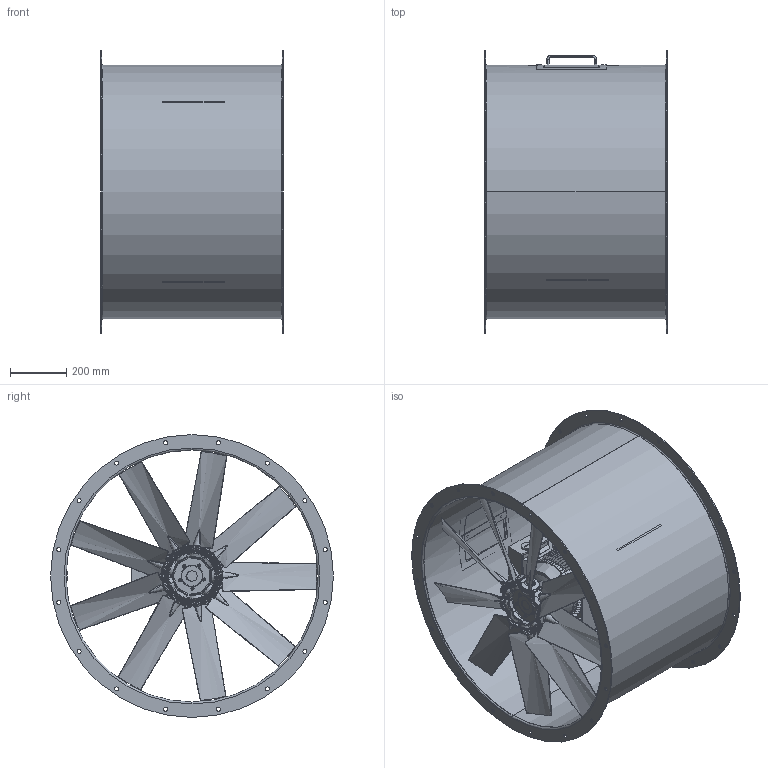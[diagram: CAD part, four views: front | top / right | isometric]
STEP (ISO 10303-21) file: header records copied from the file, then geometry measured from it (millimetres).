
FILE_DESCRIPTION (( 'STEP AP214' ), '1' );
FILE_NAME ('BRV 900_FF_L=650_mot.132_lang utf.STEP', '2020-09-09T10:54:31', ( '' ), ( '' ), 'SwSTEP 2.0', 'SolidWorks 2016', '' );
FILE_SCHEMA (( 'AUTOMOTIVE_DESIGN' ));
Length unit declared in the file: millimetre
Products named in the file (26): BRV 900 Insp.luke 200x200; Boss Bolt And Nuts - 891_9-9_40_PAGAS_5ZL_38_10_82_A-122917; Boss Bolt And Nuts - 891_9-9_40_PAGAS_5ZL_38_10_82_A-122917_4; M8_C1-1 Bolt And Nuts - 891_9-9_40_PAGAS_5ZL_38_10_82_A-122917_4; BB-Nut-Y63206000040_891_9-9_40_PAGAS_5ZL_38_10_82_A-122917; Boss Bolt And Nuts - 891_9-9_40_PAGAS_5ZL_38_10_82_A-122917_3; BB-Bolt-Y62006200040_891_9-9_40_PAGAS_5ZL_38_10_82_A-122917; 24000707800 - 891_9-9_40_PAGAS_5ZL_38_10_82_A-122917; Boss Bolt And Nuts - 891_9-9_40_PAGAS_5ZL_38_10_82_A-122917_2; Boss Bolt And Nuts - 891_9-9_40_PAGAS_5ZL_38_10_82_A-122917_5; 15100300018 - 891_9-9_40_PAGAS_5ZL_38_10_82_A-122917; 891_9-9_40_PAGAS_5ZL_38_10_82_A-122917; 21090708103 - 891_9-9_40_PAGAS_5ZL_38_10_82_A-122917; C1-1-Nuts-Y63206000040_891_9-9_40_PAGAS_5ZL_38_10_82_A-122917; M8_C1-1 Bolt And Nuts - 891_9-9_40_PAGAS_5ZL_38_10_82_A-122917_5; 1TZ9 C 132S-2 5 5kW B3 IE3; M8_C1-1 Bolt And Nuts - 891_9-9_40_PAGAS_5ZL_38_10_82_A-122917_2; M8_C1-1 Bolt And Nuts - 891_9-9_40_PAGAS_5ZL_38_10_82_A-122917_3; M8_C1-1 Bolt And Nuts - 891_9-9_40_PAGAS_5ZL_38_10_82_A-122917; C1-1-Bolt-Y62006350040_891_9-9_40_PAGAS_5ZL_38_10_82_A-122917; BRV 900_hus_FF_L=650_mot. 132_lang utf; M8_C1-1 Bolt And Nuts - 891_9-9_40_PAGAS_5ZL_38_10_82_A-122917_9; M8_C1-1 Bolt And Nuts - 891_9-9_40_PAGAS_5ZL_38_10_82_A-122917_6; BRV 900_FF_L=650_mot.132_lang utf; M8_C1-1 Bolt And Nuts - 891_9-9_40_PAGAS_5ZL_38_10_82_A-122917_8; M8_C1-1 Bolt And Nuts - 891_9-9_40_PAGAS_5ZL_38_10_82_A-122917_7
Assembly tree (58 placements, depth 4):
  BRV 900_FF_L=650_mot.132_lang utf
    BRV 900_hus_FF_L=650_mot. 132_lang utf
    1TZ9 C 132S-2 5 5kW B3 IE3
    BRV 900 Insp.luke 200x200
    891_9-9_40_PAGAS_5ZL_38_10_82_A-122917
      21090708103 - 891_9-9_40_PAGAS_5ZL_38_10_82_A-122917  x2
      15100300018 - 891_9-9_40_PAGAS_5ZL_38_10_82_A-122917  x9
      24000707800 - 891_9-9_40_PAGAS_5ZL_38_10_82_A-122917
      Boss Bolt And Nuts - 891_9-9_40_PAGAS_5ZL_38_10_82_A-122917
        BB-Bolt-Y62006200040_891_9-9_40_PAGAS_5ZL_38_10_82_A-122917
        BB-Nut-Y63206000040_891_9-9_40_PAGAS_5ZL_38_10_82_A-122917
      M8_C1-1 Bolt And Nuts - 891_9-9_40_PAGAS_5ZL_38_10_82_A-122917
        C1-1-Bolt-Y62006350040_891_9-9_40_PAGAS_5ZL_38_10_82_A-122917
        C1-1-Nuts-Y63206000040_891_9-9_40_PAGAS_5ZL_38_10_82_A-122917
      Boss Bolt And Nuts - 891_9-9_40_PAGAS_5ZL_38_10_82_A-122917_2
        BB-Bolt-Y62006200040_891_9-9_40_PAGAS_5ZL_38_10_82_A-122917
        BB-Nut-Y63206000040_891_9-9_40_PAGAS_5ZL_38_10_82_A-122917
      Boss Bolt And Nuts - 891_9-9_40_PAGAS_5ZL_38_10_82_A-122917_3
        BB-Bolt-Y62006200040_891_9-9_40_PAGAS_5ZL_38_10_82_A-122917
        BB-Nut-Y63206000040_891_9-9_40_PAGAS_5ZL_38_10_82_A-122917
      Boss Bolt And Nuts - 891_9-9_40_PAGAS_5ZL_38_10_82_A-122917_4
        BB-Bolt-Y62006200040_891_9-9_40_PAGAS_5ZL_38_10_82_A-122917
        BB-Nut-Y63206000040_891_9-9_40_PAGAS_5ZL_38_10_82_A-122917
      Boss Bolt And Nuts - 891_9-9_40_PAGAS_5ZL_38_10_82_A-122917_5
        BB-Bolt-Y62006200040_891_9-9_40_PAGAS_5ZL_38_10_82_A-122917
        BB-Nut-Y63206000040_891_9-9_40_PAGAS_5ZL_38_10_82_A-122917
      M8_C1-1 Bolt And Nuts - 891_9-9_40_PAGAS_5ZL_38_10_82_A-122917_2
        C1-1-Bolt-Y62006350040_891_9-9_40_PAGAS_5ZL_38_10_82_A-122917
        C1-1-Nuts-Y63206000040_891_9-9_40_PAGAS_5ZL_38_10_82_A-122917
      M8_C1-1 Bolt And Nuts - 891_9-9_40_PAGAS_5ZL_38_10_82_A-122917_3
        C1-1-Bolt-Y62006350040_891_9-9_40_PAGAS_5ZL_38_10_82_A-122917
        C1-1-Nuts-Y63206000040_891_9-9_40_PAGAS_5ZL_38_10_82_A-122917
      M8_C1-1 Bolt And Nuts - 891_9-9_40_PAGAS_5ZL_38_10_82_A-122917_4
        C1-1-Bolt-Y62006350040_891_9-9_40_PAGAS_5ZL_38_10_82_A-122917
        C1-1-Nuts-Y63206000040_891_9-9_40_PAGAS_5ZL_38_10_82_A-122917
      M8_C1-1 Bolt And Nuts - 891_9-9_40_PAGAS_5ZL_38_10_82_A-122917_5
        C1-1-Bolt-Y62006350040_891_9-9_40_PAGAS_5ZL_38_10_82_A-122917
        C1-1-Nuts-Y63206000040_891_9-9_40_PAGAS_5ZL_38_10_82_A-122917
      M8_C1-1 Bolt And Nuts - 891_9-9_40_PAGAS_5ZL_38_10_82_A-122917_6
        C1-1-Bolt-Y62006350040_891_9-9_40_PAGAS_5ZL_38_10_82_A-122917
        C1-1-Nuts-Y63206000040_891_9-9_40_PAGAS_5ZL_38_10_82_A-122917
      M8_C1-1 Bolt And Nuts - 891_9-9_40_PAGAS_5ZL_38_10_82_A-122917_7
        C1-1-Bolt-Y62006350040_891_9-9_40_PAGAS_5ZL_38_10_82_A-122917
        C1-1-Nuts-Y63206000040_891_9-9_40_PAGAS_5ZL_38_10_82_A-122917
      M8_C1-1 Bolt And Nuts - 891_9-9_40_PAGAS_5ZL_38_10_82_A-122917_8
        C1-1-Bolt-Y62006350040_891_9-9_40_PAGAS_5ZL_38_10_82_A-122917
        C1-1-Nuts-Y63206000040_891_9-9_40_PAGAS_5ZL_38_10_82_A-122917
      M8_C1-1 Bolt And Nuts - 891_9-9_40_PAGAS_5ZL_38_10_82_A-122917_9
        C1-1-Bolt-Y62006350040_891_9-9_40_PAGAS_5ZL_38_10_82_A-122917
        C1-1-Nuts-Y63206000040_891_9-9_40_PAGAS_5ZL_38_10_82_A-122917
Bounding box: 650 x 1010 x 1010 mm (x, y, z)
Volume: 29536880.9 mm3; surface area: 6615036.3 mm2
Topology: 45 solids, 45 shells, 3841 faces, 9485 edges, 5735 vertices
Faces by surface type: bspline 1724, plane 859, cylinder 623, cone 619, torus 16
Entity records: 85584 total; most frequent: CARTESIAN_POINT 42698, ORIENTED_EDGE 9930, DIRECTION 7305, EDGE_CURVE 4965, VERTEX_POINT 3106, AXIS2_PLACEMENT_3D 2768, EDGE_LOOP 2101, FACE_OUTER_BOUND 1918
